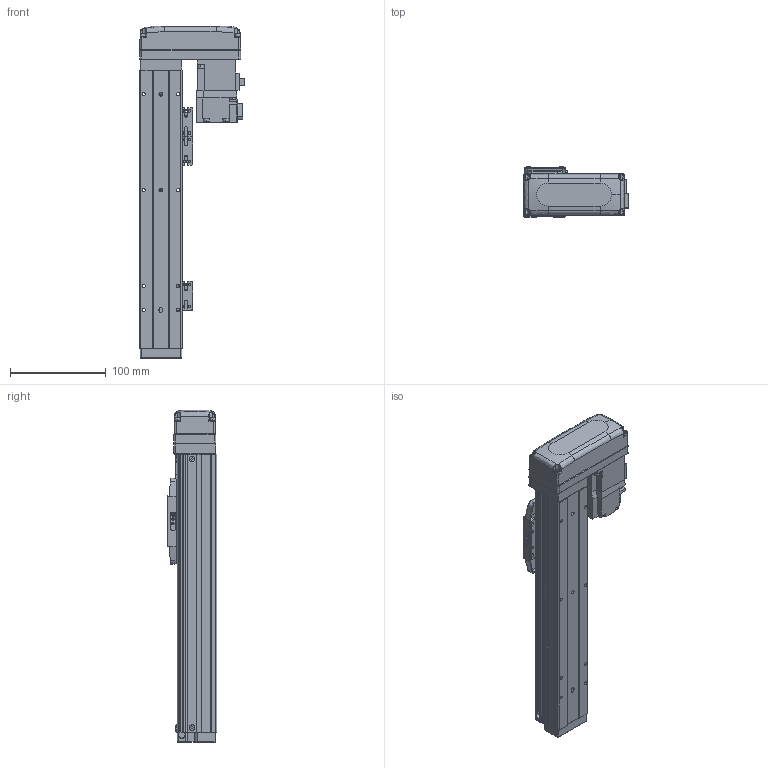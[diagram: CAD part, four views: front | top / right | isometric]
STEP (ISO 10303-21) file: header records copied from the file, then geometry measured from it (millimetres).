
FILE_DESCRIPTION (( 'STEP AP203' ), '1' );
FILE_NAME ('GTH4-150-BL-M05-C4.STEP', '2024-01-05T01:05:17', ( '' ), ( '' ), 'SwSTEP 2.0', 'SolidWorks 2020', '' );
FILE_SCHEMA (( 'CONFIG_CONTROL_DESIGN' ));
Length unit declared in the file: millimetre
Products named in the file (19): HG-KR13; BTH50-024; BTH40-003; BTH50-023; BTH40-006; BTH40-013; GBT 70.3-M3℅6; GBT70.1-2000 M3×16; BTH50-028; BTH40-027-1; BTH-M3X5X6; GBT 70.1-M3℅6; GTH4-150-BL-M05-C4; GBT 70.1-M2.5×6; BTH50-026; BTH40-004; BTH40-001-50_BTH40-001-150; GBT96.1-2002 3×0.8; BTH40-022
Assembly tree (47 placements, depth 2):
  GTH4-150-BL-M05-C4
    BTH40-001-50_BTH40-001-150
    BTH40-003
    BTH40-006
    BTH-M3X5X6  x8
    GBT70.1-2000 M3×16  x4
    BTH50-028  x2
    BTH50-023  x3
    BTH50-024  x3
    GBT 70.1-M3℅6  x6
    GBT96.1-2002 3×0.8  x6
    BTH40-022
    GBT 70.1-M2.5×6  x2
    BTH40-004
    BTH40-013
    HG-KR13
    GBT 70.3-M3℅6  x4
    BTH40-027-1
    BTH50-026
Bounding box: 108.8 x 52 x 346 mm (x, y, z)
Volume: 762110.3 mm3; surface area: 156594.8 mm2
Topology: 49 solids, 49 shells, 1951 faces, 4583 edges, 2822 vertices
Faces by surface type: plane 1052, cylinder 483, cone 250, torus 128, bspline 34, sphere 4
Entity records: 38747 total; most frequent: CARTESIAN_POINT 7442, DIRECTION 6040, ORIENTED_EDGE 5812, EDGE_CURVE 2906, AXIS2_PLACEMENT_3D 2055, VECTOR 1930, LINE 1930, VERTEX_POINT 1809
